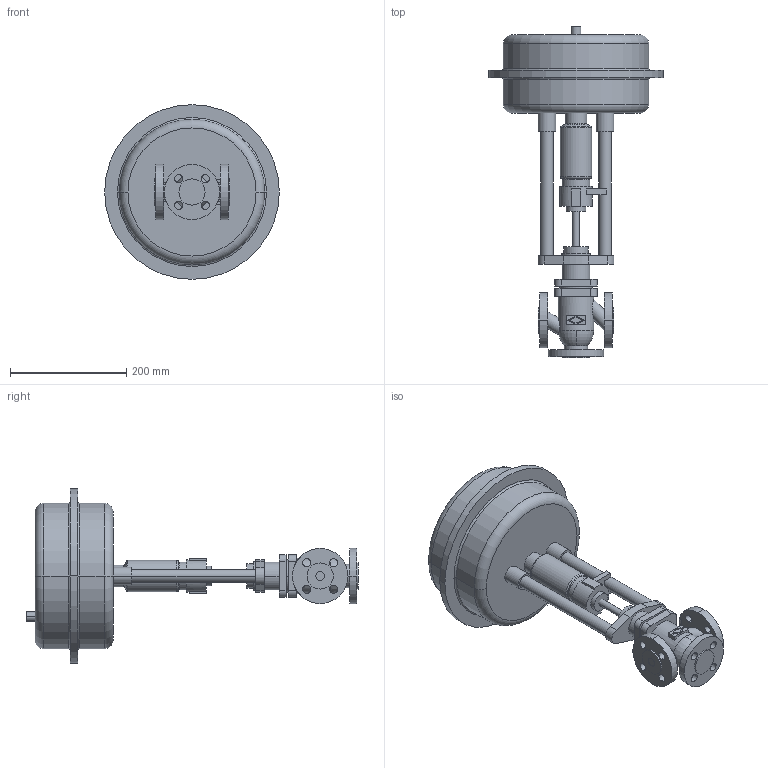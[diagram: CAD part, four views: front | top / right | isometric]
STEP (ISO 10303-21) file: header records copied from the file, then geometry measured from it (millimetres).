
FILE_DESCRIPTION(('OneSpaceDesigner STEP Export'),'2;1');
FILE_NAME('c000000660.stp','2006-09-19T 9:59:54',(''),(''),'OneSpace Designer STEP processor for AP214 (Solid Model)','OneSpace Designer 13.20A 18-Aug-2005 (C) CoCreate Software GmbH','');
FILE_SCHEMA(('AUTOMOTIVE_DESIGN { 1 0 10303 214 1 1 1 1 }'));
Length unit declared in the file: millimetre
Products named in the file (2): 1; 2
Bounding box: 300 x 570.6 x 300 mm (x, y, z)
Volume: 8188060.1 mm3; surface area: 423095.4 mm2
Topology: 2 solids, 2 shells, 205 faces, 499 edges, 328 vertices
Faces by surface type: cylinder 100, plane 83, torus 18, cone 4
Entity records: 5509 total; most frequent: CARTESIAN_POINT 1037, ORIENTED_EDGE 998, DIRECTION 818, EDGE_CURVE 499, VERTEX_POINT 328, AXIS2_PLACEMENT_3D 294, EDGE_LOOP 259, VECTOR 230
